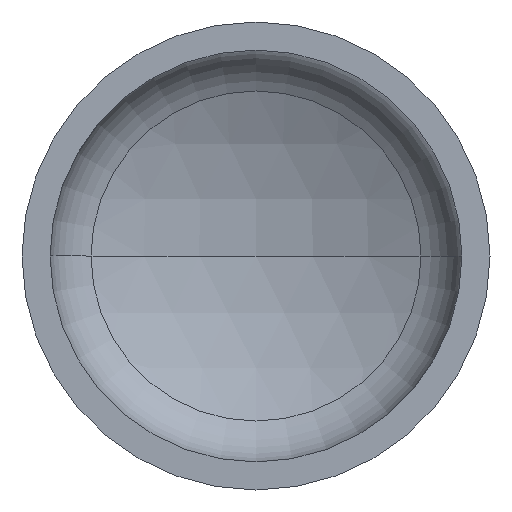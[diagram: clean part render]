
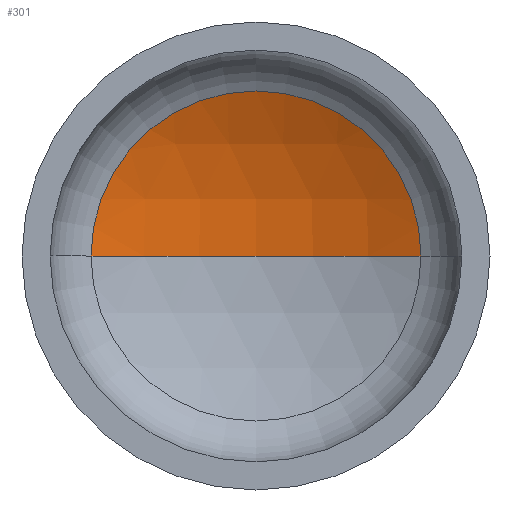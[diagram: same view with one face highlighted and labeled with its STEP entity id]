
A CAD part, front view. The second image highlights one B-rep face of the part: STEP entity #301.
In plain terms, the highlighted spherical face has radius 640 mm.
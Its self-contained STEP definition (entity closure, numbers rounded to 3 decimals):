
#4 = EDGE_LOOP ( 'NONE', ( #124, #109, #38 ) ) ;
#16 = DIRECTION ( 'NONE',  ( -1., 0., 0. ) ) ;
#38 = ORIENTED_EDGE ( 'NONE', *, *, #152, .T. ) ;
#67 = CARTESIAN_POINT ( 'NONE',  ( 0., -312.273, 0. ) ) ;
#85 = AXIS2_PLACEMENT_3D ( 'NONE', #67, #281, #16 ) ;
#87 = CARTESIAN_POINT ( 'NONE',  ( -282.097, 262.202, 0. ) ) ;
#109 = ORIENTED_EDGE ( 'NONE', *, *, #180, .T. ) ;
#115 = VERTEX_POINT ( 'NONE', #371 ) ;
#120 = CARTESIAN_POINT ( 'NONE',  ( 0., -312.273, 0. ) ) ;
#124 = ORIENTED_EDGE ( 'NONE', *, *, #203, .F. ) ;
#149 = FACE_OUTER_BOUND ( 'NONE', #4, .T. ) ;
#152 = EDGE_CURVE ( 'NONE', #156, #189, #357, .T. ) ;
#156 = VERTEX_POINT ( 'NONE', #161 ) ;
#161 = CARTESIAN_POINT ( 'NONE',  ( 282.097, 262.202, 0. ) ) ;
#170 = AXIS2_PLACEMENT_3D ( 'NONE', #179, #183, #245 ) ;
#179 = CARTESIAN_POINT ( 'NONE',  ( 0., -312.273, 0. ) ) ;
#180 = EDGE_CURVE ( 'NONE', #115, #156, #199, .T. ) ;
#183 = DIRECTION ( 'NONE',  ( 0., 0., 1. ) ) ;
#189 = VERTEX_POINT ( 'NONE', #87 ) ;
#191 = DIRECTION ( 'NONE',  ( 0., -1., 0. ) ) ;
#192 = DIRECTION ( 'NONE',  ( 1., 0., 0. ) ) ;
#196 = CARTESIAN_POINT ( 'NONE',  ( 0., 262.202, 0. ) ) ;
#199 = CIRCLE ( 'NONE', #85, 640. ) ;
#203 = EDGE_CURVE ( 'NONE', #115, #189, #339, .T. ) ;
#245 = DIRECTION ( 'NONE',  ( 1., 0., 0. ) ) ;
#281 = DIRECTION ( 'NONE',  ( 0., 0., -1. ) ) ;
#284 = DIRECTION ( 'NONE',  ( -1., 0., 0. ) ) ;
#301 = ADVANCED_FACE ( 'NONE', ( #149 ), #303, .F. ) ;
#303 = SPHERICAL_SURFACE ( 'NONE', #331, 640. ) ;
#331 = AXIS2_PLACEMENT_3D ( 'NONE', #120, #345, #284 ) ;
#339 = CIRCLE ( 'NONE', #170, 640. ) ;
#345 = DIRECTION ( 'NONE',  ( 0., 0., -1. ) ) ;
#357 = CIRCLE ( 'NONE', #386, 282.097 ) ;
#371 = CARTESIAN_POINT ( 'NONE',  ( 0., 327.727, 0. ) ) ;
#386 = AXIS2_PLACEMENT_3D ( 'NONE', #196, #191, #192 ) ;
